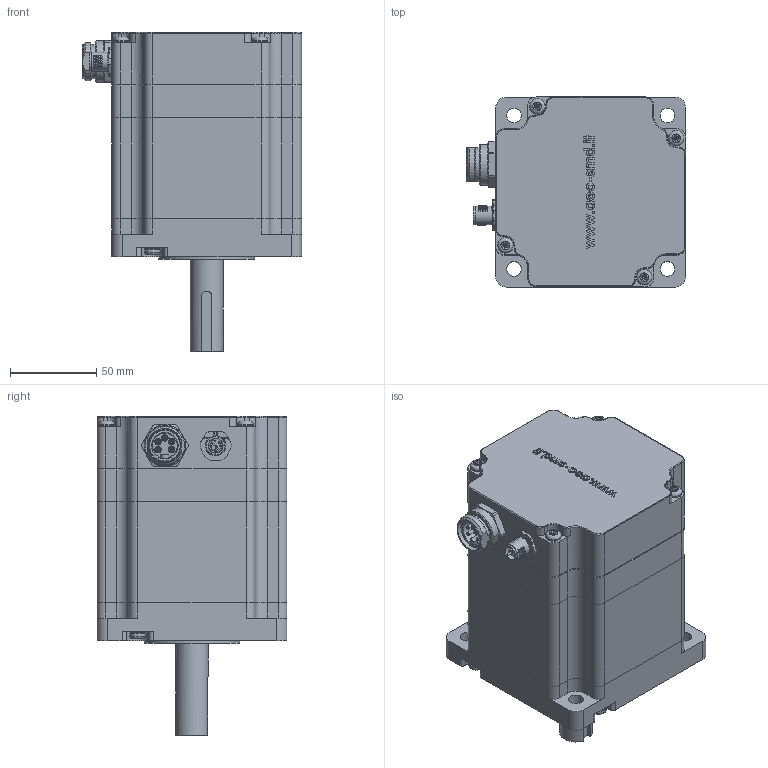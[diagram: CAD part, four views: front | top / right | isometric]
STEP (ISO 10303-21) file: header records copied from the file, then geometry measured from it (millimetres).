
FILE_DESCRIPTION (( 'STEP AP214' ), '1' );
FILE_NAME ('M110SH99B.STEP', '2022-01-31T09:29:48', ( '' ), ( '' ), 'SwSTEP 2.0', 'SolidWorks 2019', '' );
FILE_SCHEMA (( 'AUTOMOTIVE_DESIGN' ));
Length unit declared in the file: millimetre
Products named in the file (13): SKF_6304-Z; Statore 110 SH 99 BAO; 7_8connector-1521452; Vite T.B. M5 x 39.5 BAO; Flangia A 110 BAO; 1523492; Albero 110 SH 99 BAO; M110SH99B; Flangia P 110 BAO; Terminal box 110 SH BAO; spring lock washer 2_din_DIN 6905-4.55-FSt; Vite serrapacco M5 x 96.5 BAO; SKF_6203-Z
Assembly tree (21 placements, depth 2):
  M110SH99B
    Flangia A 110 BAO
    Statore 110 SH 99 BAO
    Flangia P 110 BAO
    SKF_6203-Z
    SKF_6304-Z
    Albero 110 SH 99 BAO
    Vite serrapacco M5 x 96.5 BAO  x4
    spring lock washer 2_din_DIN 6905-4.55-FSt  x4
    Terminal box 110 SH BAO
    Vite T.B. M5 x 39.5 BAO  x4
    7_8connector-1521452
    1523492
Bounding box: 127 x 110 x 185 mm (x, y, z)
Volume: 627813.3 mm3; surface area: 236310 mm2
Topology: 45 solids, 45 shells, 1440 faces, 3785 edges, 2484 vertices
Faces by surface type: plane 721, cylinder 339, bspline 234, cone 77, torus 69
Full cylindrical faces by diameter (mm): 0.217 x1, 0.8 x8, 1.09 x8, 2 x5, 2.4 x5, 2.5 x1, 3 x5, 3.3 x8, 4 x1, 4.2 x8, 4.38 x8, 4.98 x8, 5 x4, 5.5 x12, 8.5 x4, 9 x9, 10.7 x1, 10.9 x1, 14.5 x1, 17 x2, 17.8 x1, 18.5 x3, 19 x1, 20 x2, 22 x2, 24.5 x3, 30.35 x3, 32.7 x2, 34 x1, 34.98 x3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
Entity records: 56926 total; most frequent: CARTESIAN_POINT 19325, ORIENTED_EDGE 5828, DIRECTION 5484, EDGE_CURVE 2914, VERTEX_POINT 2001, AXIS2_PLACEMENT_3D 1879, LINE 1726, VECTOR 1726
